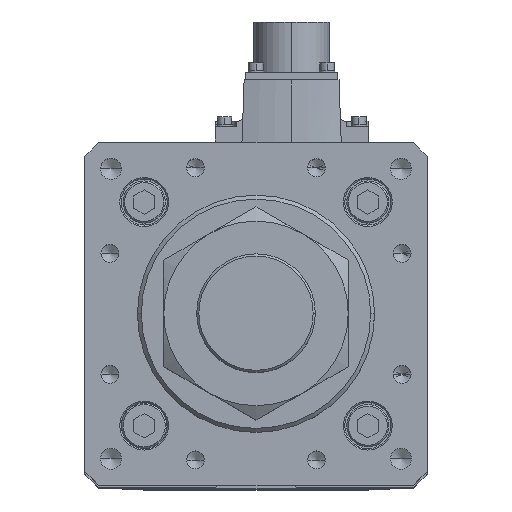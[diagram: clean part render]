
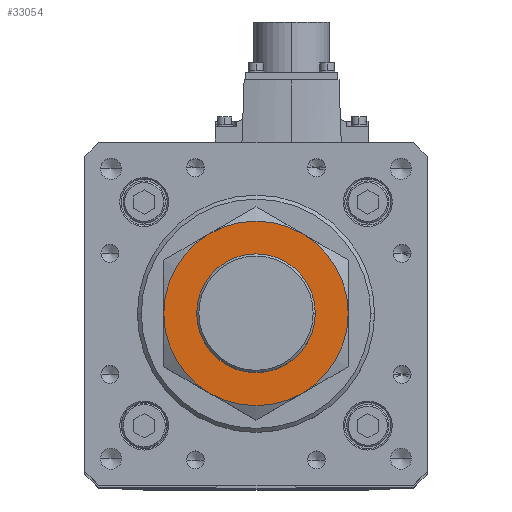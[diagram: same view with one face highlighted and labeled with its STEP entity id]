
A CAD part, top view. The second image highlights one B-rep face of the part: STEP entity #33054.
In plain terms, the highlighted planar face has unit normal (0, 0, 1).
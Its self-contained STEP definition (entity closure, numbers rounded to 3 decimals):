
#1379 = CARTESIAN_POINT ( 'NONE',  ( 17.5, -30.311, 27. ) ) ;
#1567 = DIRECTION ( 'NONE',  ( 0., 0., 1. ) ) ;
#1598 = CIRCLE ( 'NONE', #37155, 35. ) ;
#1973 = FACE_BOUND ( 'NONE', #25673, .T. ) ;
#3056 = DIRECTION ( 'NONE',  ( 0., 0., -1. ) ) ;
#3395 = CIRCLE ( 'NONE', #23313, 22.5 ) ;
#4870 = ORIENTED_EDGE ( 'NONE', *, *, #33737, .F. ) ;
#5209 = EDGE_CURVE ( 'NONE', #36953, #11599, #22013, .T. ) ;
#5670 = CARTESIAN_POINT ( 'NONE',  ( -35., 0., 27. ) ) ;
#6060 = CARTESIAN_POINT ( 'NONE',  ( 0., 0., 27. ) ) ;
#6751 = CARTESIAN_POINT ( 'NONE',  ( -17.5, -30.311, 27. ) ) ;
#6805 = CARTESIAN_POINT ( 'NONE',  ( 0., 0., 27. ) ) ;
#7190 = DIRECTION ( 'NONE',  ( -1., 0., 0. ) ) ;
#8445 = DIRECTION ( 'NONE',  ( 1., 0., 0. ) ) ;
#10116 = VERTEX_POINT ( 'NONE', #24317 ) ;
#11106 = CIRCLE ( 'NONE', #32221, 35. ) ;
#11599 = VERTEX_POINT ( 'NONE', #1379 ) ;
#11693 = VERTEX_POINT ( 'NONE', #13336 ) ;
#11916 = CARTESIAN_POINT ( 'NONE',  ( 0., 0., 27. ) ) ;
#12422 = CIRCLE ( 'NONE', #32712, 22.5 ) ;
#12492 = VERTEX_POINT ( 'NONE', #5670 ) ;
#12807 = CIRCLE ( 'NONE', #15629, 35. ) ;
#13336 = CARTESIAN_POINT ( 'NONE',  ( -22.5, 0., 27. ) ) ;
#14646 = DIRECTION ( 'NONE',  ( -1., 0., 0. ) ) ;
#15105 = DIRECTION ( 'NONE',  ( -1., 0., 0. ) ) ;
#15576 = AXIS2_PLACEMENT_3D ( 'NONE', #33379, #24590, #30521 ) ;
#15620 = EDGE_CURVE ( 'NONE', #19238, #11693, #12422, .T. ) ;
#15629 = AXIS2_PLACEMENT_3D ( 'NONE', #32321, #3056, #14646 ) ;
#15745 = DIRECTION ( 'NONE',  ( 1., 0., 0. ) ) ;
#15881 = CARTESIAN_POINT ( 'NONE',  ( 0., 0., 27. ) ) ;
#16363 = CIRCLE ( 'NONE', #36478, 35. ) ;
#16596 = VERTEX_POINT ( 'NONE', #6751 ) ;
#17152 = EDGE_CURVE ( 'NONE', #12492, #10116, #12807, .T. ) ;
#18909 = CARTESIAN_POINT ( 'NONE',  ( 17.5, 30.311, 27. ) ) ;
#19098 = CARTESIAN_POINT ( 'NONE',  ( 0., 0., 27. ) ) ;
#19238 = VERTEX_POINT ( 'NONE', #30849 ) ;
#19433 = VERTEX_POINT ( 'NONE', #18909 ) ;
#21568 = CARTESIAN_POINT ( 'NONE',  ( 35., 0., 27. ) ) ;
#21895 = DIRECTION ( 'NONE',  ( 0., 0., -1. ) ) ;
#21930 = ORIENTED_EDGE ( 'NONE', *, *, #34345, .F. ) ;
#22013 = CIRCLE ( 'NONE', #15576, 35. ) ;
#22087 = EDGE_CURVE ( 'NONE', #10116, #19433, #28543, .T. ) ;
#23076 = PLANE ( 'NONE',  #30478 ) ;
#23313 = AXIS2_PLACEMENT_3D ( 'NONE', #15881, #33458, #15745 ) ;
#23355 = ORIENTED_EDGE ( 'NONE', *, *, #23877, .F. ) ;
#23877 = EDGE_CURVE ( 'NONE', #16596, #12492, #1598, .T. ) ;
#24317 = CARTESIAN_POINT ( 'NONE',  ( -17.5, 30.311, 27. ) ) ;
#24590 = DIRECTION ( 'NONE',  ( 0., 0., -1. ) ) ;
#25021 = ORIENTED_EDGE ( 'NONE', *, *, #5209, .F. ) ;
#25451 = AXIS2_PLACEMENT_3D ( 'NONE', #30925, #21895, #28193 ) ;
#25673 = EDGE_LOOP ( 'NONE', ( #27144, #30233 ) ) ;
#26755 = DIRECTION ( 'NONE',  ( -1., 0., 0. ) ) ;
#27144 = ORIENTED_EDGE ( 'NONE', *, *, #32295, .F. ) ;
#28193 = DIRECTION ( 'NONE',  ( -1., 0., 0. ) ) ;
#28543 = CIRCLE ( 'NONE', #25451, 35. ) ;
#30233 = ORIENTED_EDGE ( 'NONE', *, *, #15620, .F. ) ;
#30478 = AXIS2_PLACEMENT_3D ( 'NONE', #37513, #37891, #8445 ) ;
#30521 = DIRECTION ( 'NONE',  ( -1., 0., 0. ) ) ;
#30849 = CARTESIAN_POINT ( 'NONE',  ( 22.5, 0., 27. ) ) ;
#30925 = CARTESIAN_POINT ( 'NONE',  ( 0., 0., 27. ) ) ;
#32221 = AXIS2_PLACEMENT_3D ( 'NONE', #11916, #32604, #26755 ) ;
#32295 = EDGE_CURVE ( 'NONE', #11693, #19238, #3395, .T. ) ;
#32321 = CARTESIAN_POINT ( 'NONE',  ( 0., 0., 27. ) ) ;
#32604 = DIRECTION ( 'NONE',  ( 0., 0., -1. ) ) ;
#32712 = AXIS2_PLACEMENT_3D ( 'NONE', #19098, #1567, #33976 ) ;
#32804 = DIRECTION ( 'NONE',  ( 0., 0., -1. ) ) ;
#32892 = FACE_OUTER_BOUND ( 'NONE', #36093, .T. ) ;
#33054 = ADVANCED_FACE ( 'NONE', ( #32892, #1973 ), #23076, .T. ) ;
#33379 = CARTESIAN_POINT ( 'NONE',  ( 0., 0., 27. ) ) ;
#33458 = DIRECTION ( 'NONE',  ( 0., 0., 1. ) ) ;
#33676 = DIRECTION ( 'NONE',  ( 0., 0., -1. ) ) ;
#33737 = EDGE_CURVE ( 'NONE', #19433, #36953, #11106, .T. ) ;
#33976 = DIRECTION ( 'NONE',  ( 1., 0., 0. ) ) ;
#34345 = EDGE_CURVE ( 'NONE', #11599, #16596, #16363, .T. ) ;
#35208 = ORIENTED_EDGE ( 'NONE', *, *, #22087, .F. ) ;
#36093 = EDGE_LOOP ( 'NONE', ( #25021, #4870, #35208, #38115, #23355, #21930 ) ) ;
#36478 = AXIS2_PLACEMENT_3D ( 'NONE', #6060, #32804, #15105 ) ;
#36953 = VERTEX_POINT ( 'NONE', #21568 ) ;
#37155 = AXIS2_PLACEMENT_3D ( 'NONE', #6805, #33676, #7190 ) ;
#37513 = CARTESIAN_POINT ( 'NONE',  ( 0., 0., 27. ) ) ;
#37891 = DIRECTION ( 'NONE',  ( 0., 0., 1. ) ) ;
#38115 = ORIENTED_EDGE ( 'NONE', *, *, #17152, .F. ) ;
